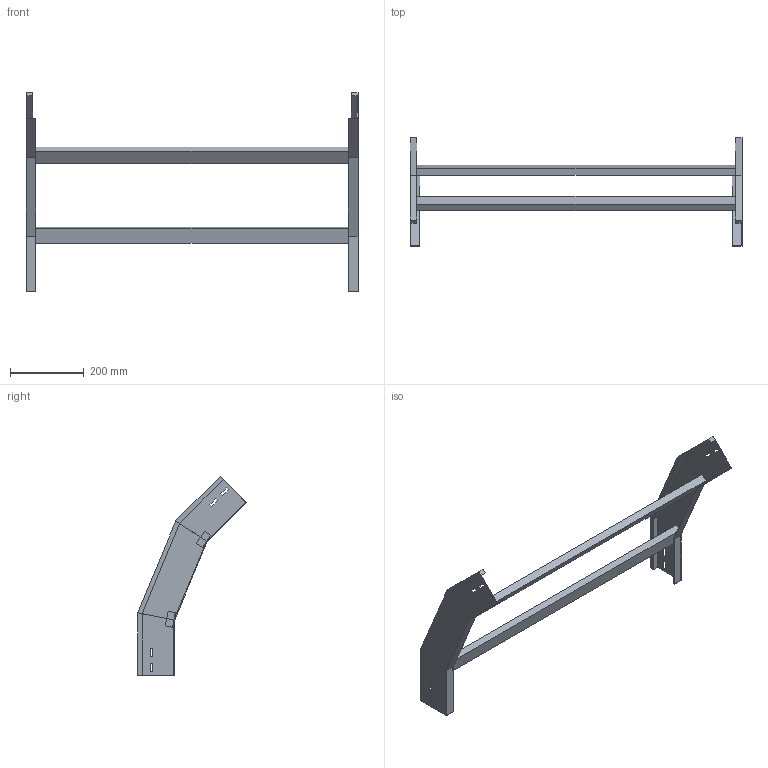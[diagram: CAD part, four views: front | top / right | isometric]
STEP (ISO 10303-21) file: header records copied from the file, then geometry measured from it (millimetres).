
FILE_DESCRIPTION (( 'STEP AP214' ), '1' );
FILE_NAME ('A2_34B3D900.step', '2025-02-21T14:51:53', ( '' ), ( '' ), 'SwSTEP 2.0', 'SolidWorks 2023', '' );
FILE_SCHEMA (( 'AUTOMOTIVE_DESIGN' ));
Length unit declared in the file: millimetre
Products named in the file (3): TRAVERSINO_900; A2_34B3D900; LONGH.DISCESA_45°_H100_R300
Assembly tree (5 placements, depth 2):
  A2_34B3D900
    LONGH.DISCESA_45°_H100_R300  x2
    TRAVERSINO_900  x3
Bounding box: 900 x 294.08 x 539.27 mm (x, y, z)
Volume: 2688048.3 mm3; surface area: 654597.4 mm2
Topology: 5 solids, 5 shells, 102 faces, 244 edges, 152 vertices
Faces by surface type: plane 102
Entity records: 1480 total; most frequent: CARTESIAN_POINT 244, ORIENTED_EDGE 232, DIRECTION 228, LINE 116, EDGE_CURVE 116, VECTOR 116, VERTEX_POINT 72, AXIS2_PLACEMENT_3D 56
